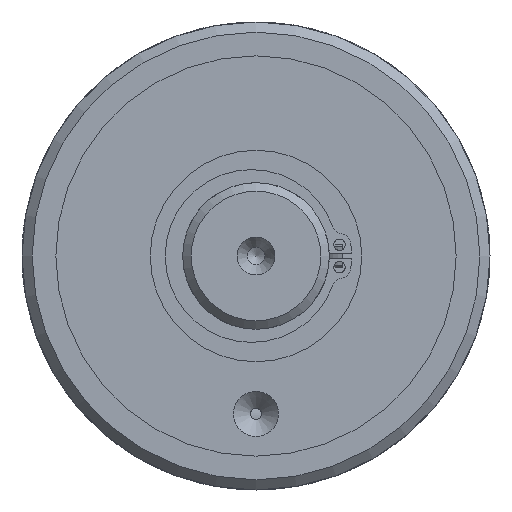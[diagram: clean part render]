
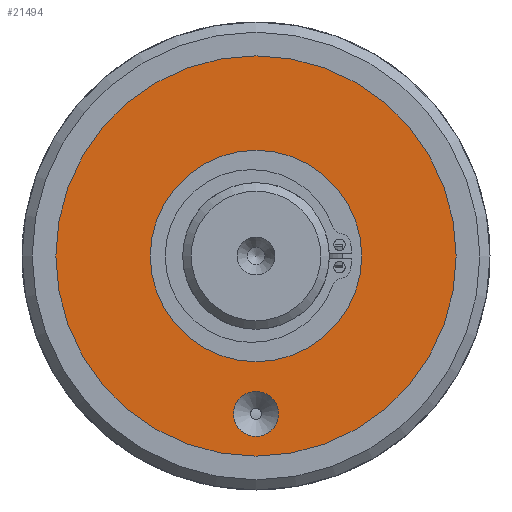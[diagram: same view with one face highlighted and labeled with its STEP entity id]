
A CAD part, left-side view. The second image highlights one B-rep face of the part: STEP entity #21494.
In plain terms, the highlighted planar face has unit normal (-1, 0, 0).
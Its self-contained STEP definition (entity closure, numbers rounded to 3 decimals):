
#272=FACE_BOUND('',#2393,.T.);
#273=FACE_BOUND('',#2394,.T.);
#500=PLANE('',#23987);
#1235=FACE_OUTER_BOUND('',#2392,.T.);
#2392=EDGE_LOOP('',(#16850));
#2393=EDGE_LOOP('',(#16851));
#2394=EDGE_LOOP('',(#16852));
#6546=CIRCLE('',#23973,35.5);
#6549=CIRCLE('',#23980,4.);
#6552=CIRCLE('',#23986,18.75);
#8655=VERTEX_POINT('',#37174);
#8658=VERTEX_POINT('',#37185);
#8661=VERTEX_POINT('',#37196);
#11530=EDGE_CURVE('',#8655,#8655,#6546,.T.);
#11534=EDGE_CURVE('',#8658,#8658,#6549,.T.);
#11540=EDGE_CURVE('',#8661,#8661,#6552,.T.);
#16850=ORIENTED_EDGE('',*,*,#11530,.F.);
#16851=ORIENTED_EDGE('',*,*,#11534,.T.);
#16852=ORIENTED_EDGE('',*,*,#11540,.T.);
#21494=ADVANCED_FACE('',(#1235,#272,#273),#500,.T.);
#23973=AXIS2_PLACEMENT_3D('',#37175,#29815,#29816);
#23980=AXIS2_PLACEMENT_3D('',#37186,#29830,#29831);
#23986=AXIS2_PLACEMENT_3D('',#37198,#29845,#29846);
#23987=AXIS2_PLACEMENT_3D('',#37199,#29847,#29848);
#29815=DIRECTION('center_axis',(1.,0.,0.));
#29816=DIRECTION('ref_axis',(0.,0.,-1.));
#29830=DIRECTION('center_axis',(1.,0.,0.));
#29831=DIRECTION('ref_axis',(0.,0.,
1.));
#29845=DIRECTION('center_axis',(1.,0.,0.));
#29846=DIRECTION('ref_axis',(0.,0.,-1.));
#29847=DIRECTION('center_axis',(-1.,0.,0.));
#29848=DIRECTION('ref_axis',(0.,0.,
1.));
#37174=CARTESIAN_POINT('',(-13.,35.5,0.));
#37175=CARTESIAN_POINT('Origin',(-13.,0.,0.));
#37185=CARTESIAN_POINT('',(-13.,0.,-32.));
#37186=CARTESIAN_POINT('Origin',(-13.,0.,-28.));
#37196=CARTESIAN_POINT('',(-13.,-18.75,0.));
#37198=CARTESIAN_POINT('Origin',(-13.,0.,0.));
#37199=CARTESIAN_POINT('Origin',(-13.,35.5,0.));
